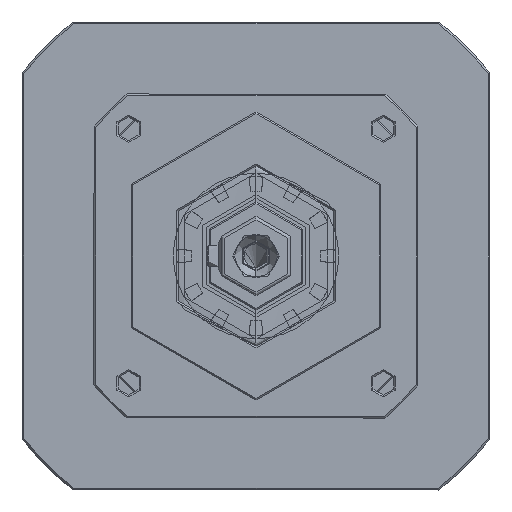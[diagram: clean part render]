
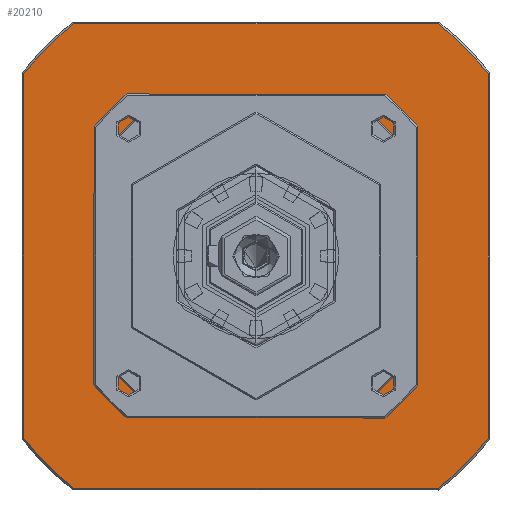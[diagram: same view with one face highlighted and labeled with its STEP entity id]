
A CAD part, left-side view. The second image highlights one B-rep face of the part: STEP entity #20210.
In plain terms, the highlighted planar face has unit normal (-1, 0, 0).
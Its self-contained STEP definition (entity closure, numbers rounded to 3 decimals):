
#132 = CARTESIAN_POINT ( 'NONE',  ( 124.5, 23.875, -44.5 ) ) ;
#734 = CIRCLE ( 'NONE', #13844, 50.5 ) ;
#1219 = VERTEX_POINT ( 'NONE', #26053 ) ;
#2325 = DIRECTION ( 'NONE',  ( 0., 0., 1. ) ) ;
#2623 = EDGE_LOOP ( 'NONE', ( #97234, #21999, #44882, #77235, #58873, #26246, #44085, #61192 ) ) ;
#4490 = EDGE_LOOP ( 'NONE', ( #72506, #47382, #19287, #81270, #15447, #72278, #86002, #20949 ) ) ;
#4846 = VECTOR ( 'NONE', #36733, 1000. ) ;
#4885 = PLANE ( 'NONE',  #25275 ) ;
#5361 = DIRECTION ( 'NONE',  ( -1., 0., 0. ) ) ;
#7590 = EDGE_CURVE ( 'NONE', #95646, #87889, #734, .T. ) ;
#7865 = VERTEX_POINT ( 'NONE', #18158 ) ;
#8151 = CARTESIAN_POINT ( 'NONE',  ( 124.5, 0., 0. ) ) ;
#8191 = EDGE_CURVE ( 'NONE', #7865, #77617, #85586, .T. ) ;
#8289 = FACE_OUTER_BOUND ( 'NONE', #2623, .T. ) ;
#9470 = VERTEX_POINT ( 'NONE', #85122 ) ;
#10670 = EDGE_CURVE ( 'NONE', #20035, #63529, #14527, .T. ) ;
#10729 = CARTESIAN_POINT ( 'NONE',  ( 124.5, -44.5, 0. ) ) ;
#12245 = CARTESIAN_POINT ( 'NONE',  ( 124.5, -50.633, 64.5 ) ) ;
#12958 = EDGE_CURVE ( 'NONE', #19629, #75533, #86289, .T. ) ;
#13046 = FACE_BOUND ( 'NONE', #4490, .T. ) ;
#13091 = CARTESIAN_POINT ( 'NONE',  ( 124.5, -44.5, 23.875 ) ) ;
#13217 = VECTOR ( 'NONE', #14262, 1000. ) ;
#13844 = AXIS2_PLACEMENT_3D ( 'NONE', #30396, #45551, #25082 ) ;
#14262 = DIRECTION ( 'NONE',  ( 0., 1., 0. ) ) ;
#14461 = CARTESIAN_POINT ( 'NONE',  ( 124.5, 64.5, -50.633 ) ) ;
#14527 = LINE ( 'NONE', #28736, #21632 ) ;
#15447 = ORIENTED_EDGE ( 'NONE', *, *, #63797, .F. ) ;
#16170 = DIRECTION ( 'NONE',  ( -1., 0., 0. ) ) ;
#17880 = DIRECTION ( 'NONE',  ( 0., -1., 0. ) ) ;
#18158 = CARTESIAN_POINT ( 'NONE',  ( 124.5, 64.5, 50.633 ) ) ;
#19287 = ORIENTED_EDGE ( 'NONE', *, *, #7590, .T. ) ;
#19560 = CARTESIAN_POINT ( 'NONE',  ( 124.5, -44.5, -23.875 ) ) ;
#19629 = VERTEX_POINT ( 'NONE', #12245 ) ;
#20035 = VERTEX_POINT ( 'NONE', #35252 ) ;
#20210 = ADVANCED_FACE ( 'NONE', ( #13046, #8289 ), #4885, .F. ) ;
#20770 = EDGE_CURVE ( 'NONE', #91088, #87889, #67282, .T. ) ;
#20949 = ORIENTED_EDGE ( 'NONE', *, *, #10670, .F. ) ;
#21632 = VECTOR ( 'NONE', #36625, 1000. ) ;
#21729 = CARTESIAN_POINT ( 'NONE',  ( 124.5, 50.633, 64.5 ) ) ;
#21999 = ORIENTED_EDGE ( 'NONE', *, *, #8191, .T. ) ;
#22699 = DIRECTION ( 'NONE',  ( 0., 0., -1. ) ) ;
#24817 = CARTESIAN_POINT ( 'NONE',  ( 124.5, 0., 0. ) ) ;
#25082 = DIRECTION ( 'NONE',  ( 0., 0., 1. ) ) ;
#25275 = AXIS2_PLACEMENT_3D ( 'NONE', #81127, #65043, #35901 ) ;
#25712 = EDGE_CURVE ( 'NONE', #75545, #19629, #26375, .T. ) ;
#26053 = CARTESIAN_POINT ( 'NONE',  ( 124.5, -64.5, -50.633 ) ) ;
#26246 = ORIENTED_EDGE ( 'NONE', *, *, #33774, .T. ) ;
#26339 = AXIS2_PLACEMENT_3D ( 'NONE', #24817, #92778, #2325 ) ;
#26375 = CIRCLE ( 'NONE', #88306, 82. ) ;
#27326 = DIRECTION ( 'NONE',  ( 0., 0., -1. ) ) ;
#28736 = CARTESIAN_POINT ( 'NONE',  ( 124.5, 44.5, 0. ) ) ;
#29332 = CARTESIAN_POINT ( 'NONE',  ( 124.5, -64.5, 50.633 ) ) ;
#29646 = VECTOR ( 'NONE', #94176, 1000. ) ;
#30396 = CARTESIAN_POINT ( 'NONE',  ( 124.5, 0., 0. ) ) ;
#31285 = CARTESIAN_POINT ( 'NONE',  ( 124.5, -23.875, 44.5 ) ) ;
#32002 = LINE ( 'NONE', #78709, #29646 ) ;
#32863 = CARTESIAN_POINT ( 'NONE',  ( 124.5, 44.5, -23.875 ) ) ;
#33139 = AXIS2_PLACEMENT_3D ( 'NONE', #66483, #5361, #43990 ) ;
#33301 = CIRCLE ( 'NONE', #33139, 82. ) ;
#33383 = VERTEX_POINT ( 'NONE', #67329 ) ;
#33774 = EDGE_CURVE ( 'NONE', #1219, #75545, #56520, .T. ) ;
#34840 = AXIS2_PLACEMENT_3D ( 'NONE', #8151, #61002, #78762 ) ;
#35252 = CARTESIAN_POINT ( 'NONE',  ( 124.5, 44.5, 23.875 ) ) ;
#35901 = DIRECTION ( 'NONE',  ( 0., 0., -1. ) ) ;
#36273 = CIRCLE ( 'NONE', #93956, 82. ) ;
#36625 = DIRECTION ( 'NONE',  ( 0., 0., -1. ) ) ;
#36733 = DIRECTION ( 'NONE',  ( 0., 1., 0. ) ) ;
#37083 = EDGE_CURVE ( 'NONE', #72785, #33383, #32002, .T. ) ;
#38285 = CARTESIAN_POINT ( 'NONE',  ( 124.5, 0., 0. ) ) ;
#38357 = LINE ( 'NONE', #70361, #91467 ) ;
#39698 = CARTESIAN_POINT ( 'NONE',  ( 124.5, 50.633, -64.5 ) ) ;
#41277 = VECTOR ( 'NONE', #70174, 1000. ) ;
#42106 = CARTESIAN_POINT ( 'NONE',  ( 124.5, -64.5, 0. ) ) ;
#43321 = CARTESIAN_POINT ( 'NONE',  ( 124.5, 0., 64.5 ) ) ;
#43990 = DIRECTION ( 'NONE',  ( 0., 0., -1. ) ) ;
#44085 = ORIENTED_EDGE ( 'NONE', *, *, #25712, .T. ) ;
#44841 = DIRECTION ( 'NONE',  ( 0., 0., -1. ) ) ;
#44882 = ORIENTED_EDGE ( 'NONE', *, *, #87839, .T. ) ;
#45551 = DIRECTION ( 'NONE',  ( 1., 0., 0. ) ) ;
#46042 = VERTEX_POINT ( 'NONE', #132 ) ;
#46281 = CIRCLE ( 'NONE', #34840, 50.5 ) ;
#47382 = ORIENTED_EDGE ( 'NONE', *, *, #48092, .F. ) ;
#48092 = EDGE_CURVE ( 'NONE', #95646, #87721, #65283, .T. ) ;
#49060 = CIRCLE ( 'NONE', #66962, 82. ) ;
#50690 = DIRECTION ( 'NONE',  ( 0., 0., 1. ) ) ;
#51566 = CARTESIAN_POINT ( 'NONE',  ( 124.5, 0., 44.5 ) ) ;
#52117 = DIRECTION ( 'NONE',  ( -1., 0., 0. ) ) ;
#52160 = EDGE_CURVE ( 'NONE', #33383, #1219, #49060, .T. ) ;
#56520 = LINE ( 'NONE', #42106, #84756 ) ;
#58842 = EDGE_CURVE ( 'NONE', #75533, #7865, #33301, .T. ) ;
#58873 = ORIENTED_EDGE ( 'NONE', *, *, #52160, .T. ) ;
#61002 = DIRECTION ( 'NONE',  ( -1., 0., 0. ) ) ;
#61034 = AXIS2_PLACEMENT_3D ( 'NONE', #95135, #86579, #71757 ) ;
#61192 = ORIENTED_EDGE ( 'NONE', *, *, #12958, .T. ) ;
#63529 = VERTEX_POINT ( 'NONE', #32863 ) ;
#63797 = EDGE_CURVE ( 'NONE', #9470, #91088, #79724, .T. ) ;
#65043 = DIRECTION ( 'NONE',  ( 1., 0., 0. ) ) ;
#65283 = LINE ( 'NONE', #51566, #13217 ) ;
#66483 = CARTESIAN_POINT ( 'NONE',  ( 124.5, 0., 0. ) ) ;
#66962 = AXIS2_PLACEMENT_3D ( 'NONE', #97607, #52117, #44841 ) ;
#67282 = LINE ( 'NONE', #10729, #41277 ) ;
#67329 = CARTESIAN_POINT ( 'NONE',  ( 124.5, -50.633, -64.5 ) ) ;
#69112 = EDGE_CURVE ( 'NONE', #63529, #46042, #46281, .T. ) ;
#70174 = DIRECTION ( 'NONE',  ( 0., 0., 1. ) ) ;
#70361 = CARTESIAN_POINT ( 'NONE',  ( 124.5, 0., -44.5 ) ) ;
#71757 = DIRECTION ( 'NONE',  ( 0., 0., 1. ) ) ;
#72278 = ORIENTED_EDGE ( 'NONE', *, *, #96506, .F. ) ;
#72506 = ORIENTED_EDGE ( 'NONE', *, *, #86689, .T. ) ;
#72785 = VERTEX_POINT ( 'NONE', #39698 ) ;
#75533 = VERTEX_POINT ( 'NONE', #21729 ) ;
#75545 = VERTEX_POINT ( 'NONE', #29332 ) ;
#77235 = ORIENTED_EDGE ( 'NONE', *, *, #37083, .T. ) ;
#77617 = VERTEX_POINT ( 'NONE', #14461 ) ;
#78459 = CARTESIAN_POINT ( 'NONE',  ( 124.5, 23.875, 44.5 ) ) ;
#78709 = CARTESIAN_POINT ( 'NONE',  ( 124.5, 0., -64.5 ) ) ;
#78762 = DIRECTION ( 'NONE',  ( 0., 0., 1. ) ) ;
#79724 = CIRCLE ( 'NONE', #26339, 50.5 ) ;
#79750 = VECTOR ( 'NONE', #22699, 1000. ) ;
#81127 = CARTESIAN_POINT ( 'NONE',  ( 124.5, -64.5, 64.5 ) ) ;
#81270 = ORIENTED_EDGE ( 'NONE', *, *, #20770, .F. ) ;
#83784 = DIRECTION ( 'NONE',  ( 0., 0., -1. ) ) ;
#84756 = VECTOR ( 'NONE', #50690, 1000. ) ;
#85122 = CARTESIAN_POINT ( 'NONE',  ( 124.5, -23.875, -44.5 ) ) ;
#85586 = LINE ( 'NONE', #96605, #79750 ) ;
#86002 = ORIENTED_EDGE ( 'NONE', *, *, #69112, .F. ) ;
#86289 = LINE ( 'NONE', #43321, #4846 ) ;
#86579 = DIRECTION ( 'NONE',  ( 1., 0., 0. ) ) ;
#86689 = EDGE_CURVE ( 'NONE', #20035, #87721, #95319, .T. ) ;
#87721 = VERTEX_POINT ( 'NONE', #78459 ) ;
#87839 = EDGE_CURVE ( 'NONE', #77617, #72785, #36273, .T. ) ;
#87889 = VERTEX_POINT ( 'NONE', #13091 ) ;
#88306 = AXIS2_PLACEMENT_3D ( 'NONE', #38285, #16170, #83784 ) ;
#88323 = CARTESIAN_POINT ( 'NONE',  ( 124.5, 0., 0. ) ) ;
#91088 = VERTEX_POINT ( 'NONE', #19560 ) ;
#91467 = VECTOR ( 'NONE', #17880, 1000. ) ;
#92778 = DIRECTION ( 'NONE',  ( -1., 0., 0. ) ) ;
#93956 = AXIS2_PLACEMENT_3D ( 'NONE', #88323, #95264, #27326 ) ;
#94176 = DIRECTION ( 'NONE',  ( 0., -1., 0. ) ) ;
#95135 = CARTESIAN_POINT ( 'NONE',  ( 124.5, 0., 0. ) ) ;
#95264 = DIRECTION ( 'NONE',  ( -1., 0., 0. ) ) ;
#95319 = CIRCLE ( 'NONE', #61034, 50.5 ) ;
#95646 = VERTEX_POINT ( 'NONE', #31285 ) ;
#96506 = EDGE_CURVE ( 'NONE', #46042, #9470, #38357, .T. ) ;
#96605 = CARTESIAN_POINT ( 'NONE',  ( 124.5, 64.5, 0. ) ) ;
#97234 = ORIENTED_EDGE ( 'NONE', *, *, #58842, .T. ) ;
#97607 = CARTESIAN_POINT ( 'NONE',  ( 124.5, 0., 0. ) ) ;
